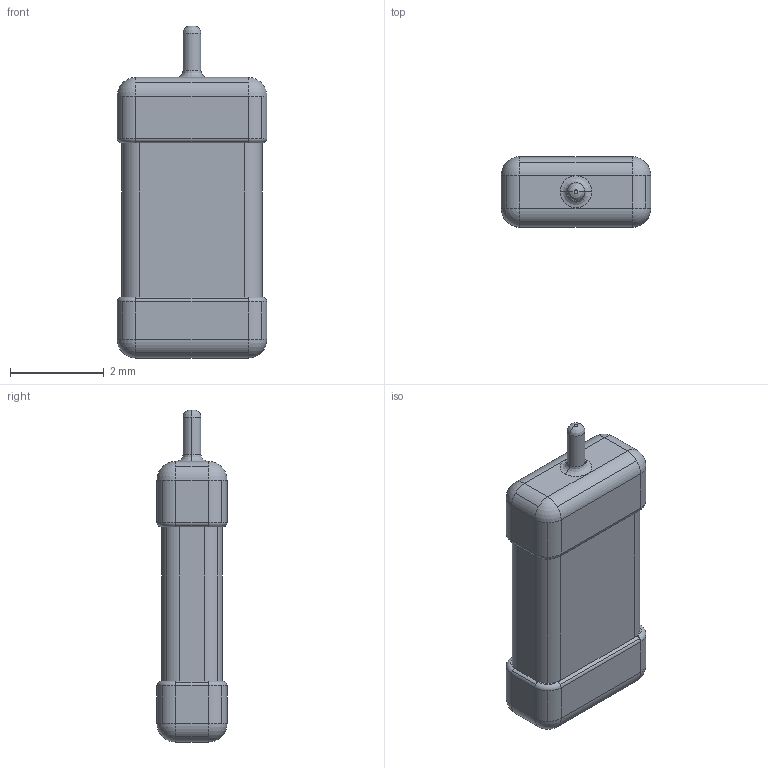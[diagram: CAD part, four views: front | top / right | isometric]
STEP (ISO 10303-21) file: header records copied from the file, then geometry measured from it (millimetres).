
FILE_DESCRIPTION((''),'2;1');
FILE_NAME('591D_C-case_15H.stp','2019-05-02T10:54:25',(''),(''),'AutoCAD STEP 2000i','AutoCAD 2000i',', , ');
FILE_SCHEMA(('CONFIG_CONTROL_DESIGN'));
Length unit declared in the file: millimetre
Products named in the file (2): 591D_C-CASE_15H; MODEL
Assembly tree (1 placements, depth 2):
  591D_C-CASE_15H
    MODEL
Bounding box: 3.2 x 1.5 x 7.1 mm (x, y, z)
Volume: 24.6 mm3; surface area: 58.1 mm2
Topology: 1 solids, 1 shells, 101 faces, 242 edges, 136 vertices
Faces by surface type: cylinder 58, plane 23, torus 8, sphere 8, bspline 4
Entity records: 3129 total; most frequent: CARTESIAN_POINT 649, DIRECTION 564, ORIENTED_EDGE 468, EDGE_CURVE 234, AXIS2_PLACEMENT_3D 231, VERTEX_POINT 136, CIRCLE 132, VECTOR 102
